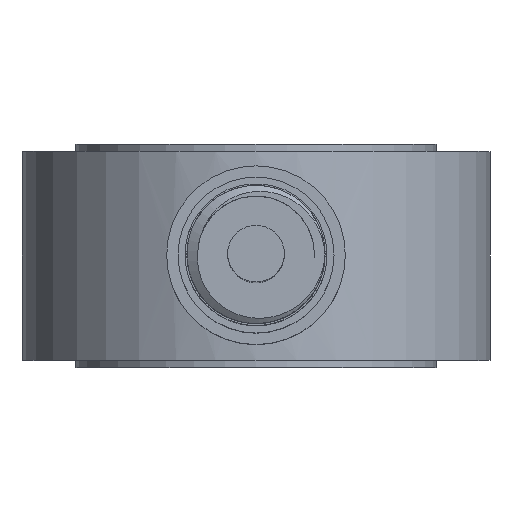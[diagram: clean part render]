
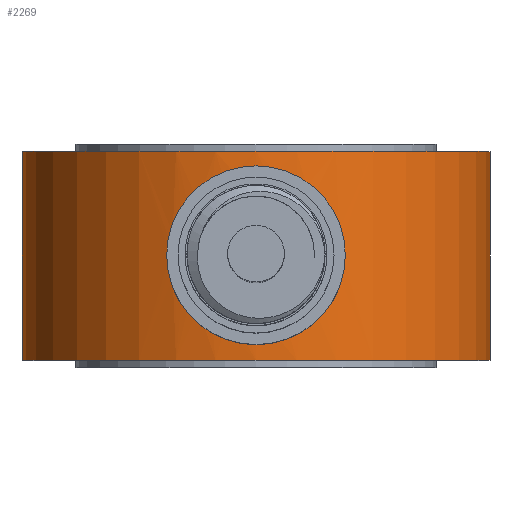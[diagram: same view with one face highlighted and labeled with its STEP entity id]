
A CAD part, top view. The second image highlights one B-rep face of the part: STEP entity #2269.
In plain terms, the highlighted cylindrical face has radius 8.25 mm (diameter 16.5 mm), a full revolution.
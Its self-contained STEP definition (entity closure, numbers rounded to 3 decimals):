
#45 = CARTESIAN_POINT ( 'NONE',  ( 3.02, 4.083, 7.677 ) ) ;
#86 = CARTESIAN_POINT ( 'NONE',  ( -3.04, 3.683, 7.669 ) ) ;
#109 = CARTESIAN_POINT ( 'NONE',  ( 2.941, 2.886, 7.708 ) ) ;
#124 = CARTESIAN_POINT ( 'NONE',  ( 3.02, 3.281, 7.677 ) ) ;
#139 = CARTESIAN_POINT ( 'NONE',  ( -0.987, 6.565, 8.193 ) ) ;
#149 = CARTESIAN_POINT ( 'NONE',  ( -0.401, 0.663, 8.243 ) ) ;
#277 = ORIENTED_EDGE ( 'NONE', *, *, #2490, .T. ) ;
#354 = CARTESIAN_POINT ( 'NONE',  ( 2.415, 1.826, 7.89 ) ) ;
#425 = CARTESIAN_POINT ( 'NONE',  ( -1.353, 6.412, 8.14 ) ) ;
#437 = CARTESIAN_POINT ( 'NONE',  ( 2.635, 2.154, 7.819 ) ) ;
#440 = DIRECTION ( 'NONE',  ( 0., 0., -1. ) ) ;
#447 = CARTESIAN_POINT ( 'NONE',  ( -2.636, 5.209, 7.818 ) ) ;
#450 = DIRECTION ( 'NONE',  ( 0., 1., 0. ) ) ;
#462 = CARTESIAN_POINT ( 'NONE',  ( 1.857, 1.268, 8.04 ) ) ;
#637 = CARTESIAN_POINT ( 'NONE',  ( 2.635, 5.212, 7.819 ) ) ;
#647 = CARTESIAN_POINT ( 'NONE',  ( 2.73, 5.035, 7.786 ) ) ;
#694 = CARTESIAN_POINT ( 'NONE',  ( 0., 0., 8.25 ) ) ;
#731 = CARTESIAN_POINT ( 'NONE',  ( 2.941, 4.478, 7.708 ) ) ;
#745 = CARTESIAN_POINT ( 'NONE',  ( -2.882, 2.696, 7.731 ) ) ;
#757 = CARTESIAN_POINT ( 'NONE',  ( -2.942, 2.89, 7.708 ) ) ;
#815 = EDGE_CURVE ( 'NONE', #1646, #1646, #1720, .T. ) ;
#849 = AXIS2_PLACEMENT_3D ( 'NONE', #866, #2868, #1724 ) ;
#866 = CARTESIAN_POINT ( 'NONE',  ( 0., 0., 0. ) ) ;
#890 = ORIENTED_EDGE ( 'NONE', *, *, #2342, .F. ) ;
#926 = CARTESIAN_POINT ( 'NONE',  ( -2.73, 5.036, 7.786 ) ) ;
#942 = CARTESIAN_POINT ( 'NONE',  ( -3.04, 3.683, 7.669 ) ) ;
#1011 = FACE_OUTER_BOUND ( 'NONE', #2564, .T. ) ;
#1029 = CARTESIAN_POINT ( 'NONE',  ( 2.011, 1.395, 8.002 ) ) ;
#1032 = CARTESIAN_POINT ( 'NONE',  ( 0., 7.366, 0. ) ) ;
#1038 = CARTESIAN_POINT ( 'NONE',  ( -2.288, 1.672, 7.928 ) ) ;
#1044 = AXIS2_PLACEMENT_3D ( 'NONE', #1318, #3609, #440 ) ;
#1052 = CARTESIAN_POINT ( 'NONE',  ( 0.402, 0.663, 8.243 ) ) ;
#1219 = CARTESIAN_POINT ( 'NONE',  ( 0.984, 6.566, 8.193 ) ) ;
#1228 = CARTESIAN_POINT ( 'NONE',  ( 1.53, 6.318, 8.109 ) ) ;
#1244 = CARTESIAN_POINT ( 'NONE',  ( 3.04, 3.882, 7.669 ) ) ;
#1316 = CARTESIAN_POINT ( 'NONE',  ( -2.011, 5.971, 8.002 ) ) ;
#1318 = CARTESIAN_POINT ( 'NONE',  ( 0., 7.366, 0. ) ) ;
#1326 = CYLINDRICAL_SURFACE ( 'NONE', #1044, 8.25 ) ;
#1329 = CARTESIAN_POINT ( 'NONE',  ( 1.354, 0.954, 8.14 ) ) ;
#1345 = CARTESIAN_POINT ( 'NONE',  ( -1.536, 1.03, 8.114 ) ) ;
#1417 = FACE_OUTER_BOUND ( 'NONE', #2700, .T. ) ;
#1508 = CARTESIAN_POINT ( 'NONE',  ( 2.73, 2.331, 7.786 ) ) ;
#1521 = CARTESIAN_POINT ( 'NONE',  ( 2.882, 2.697, 7.731 ) ) ;
#1589 = CARTESIAN_POINT ( 'NONE',  ( 0.2, 6.723, 8.25 ) ) ;
#1601 = VERTEX_POINT ( 'NONE', #694 ) ;
#1614 = CARTESIAN_POINT ( 'NONE',  ( 1.856, 6.098, 8.04 ) ) ;
#1625 = CARTESIAN_POINT ( 'NONE',  ( -0.988, 0.801, 8.193 ) ) ;
#1646 = VERTEX_POINT ( 'NONE', #86 ) ;
#1720 = B_SPLINE_CURVE_WITH_KNOTS ( 'NONE', 3,
 ( #3409, #2168, #3632, #757, #745, #3352, #2480, #2773, #1038, #1912, #1345, #1625, #2784, #149, #2200, #3064, #1052, #3075, #2491, #1329, #3341, #462, #1029, #2375, #354, #437, #1508, #1521, #109, #124, #3518, #1244, #45, #731, #2163, #647, #637, #2675, #2175, #3615, #1614, #1228, #2763, #1219, #1902, #3305, #1589, #3529, #2662, #2103, #139, #425, #1810, #2448, #1316, #2186, #2753, #447, #926, #3034, #3321, #3046, #2947, #942 ),
 .UNSPECIFIED., .T., .F.,
 ( 4, 2, 2, 2, 2, 2, 2, 2, 2, 2, 2, 2, 2, 2, 2, 2, 2, 2, 2, 2, 2, 2, 2, 2, 2, 2, 2, 2, 2, 2, 2, 4 ),
 ( 0., 0.001, 0.001, 0.002, 0.002, 0.004, 0.004, 0.005, 0.005, 0.006, 0.007, 0.007, 0.008, 0.008, 0.009, 0.01, 0.01, 0.011, 0.011, 0.012, 0.013, 0.013, 0.014, 0.014, 0.015, 0.016, 0.016, 0.017, 0.017, 0.018, 0.019, 0.019 ),
 .UNSPECIFIED. ) ;
#1724 = DIRECTION ( 'NONE',  ( 0., 0., 1. ) ) ;
#1810 = CARTESIAN_POINT ( 'NONE',  ( -1.53, 6.317, 8.109 ) ) ;
#1876 = CIRCLE ( 'NONE', #3358, 8.25 ) ;
#1902 = CARTESIAN_POINT ( 'NONE',  ( 0.794, 6.624, 8.214 ) ) ;
#1912 = CARTESIAN_POINT ( 'NONE',  ( -1.872, 1.256, 8.04 ) ) ;
#1915 = DIRECTION ( 'NONE',  ( 0., 0., 1. ) ) ;
#2103 = CARTESIAN_POINT ( 'NONE',  ( -0.794, 6.624, 8.214 ) ) ;
#2128 = CARTESIAN_POINT ( 'NONE',  ( 0., 7.366, 8.25 ) ) ;
#2163 = CARTESIAN_POINT ( 'NONE',  ( 2.883, 4.668, 7.73 ) ) ;
#2168 = CARTESIAN_POINT ( 'NONE',  ( -3.04, 3.48, 7.669 ) ) ;
#2175 = CARTESIAN_POINT ( 'NONE',  ( 2.29, 5.692, 7.927 ) ) ;
#2186 = CARTESIAN_POINT ( 'NONE',  ( -2.29, 5.692, 7.927 ) ) ;
#2200 = CARTESIAN_POINT ( 'NONE',  ( -0.202, 0.643, 8.25 ) ) ;
#2269 = ADVANCED_FACE ( 'NONE', ( #1417, #1011, #2867 ), #1326, .T. ) ;
#2342 = EDGE_CURVE ( 'NONE', #3001, #3001, #1876, .T. ) ;
#2375 = CARTESIAN_POINT ( 'NONE',  ( 2.29, 1.674, 7.927 ) ) ;
#2448 = CARTESIAN_POINT ( 'NONE',  ( -1.86, 6.096, 8.039 ) ) ;
#2462 = EDGE_LOOP ( 'NONE', ( #2742 ) ) ;
#2480 = CARTESIAN_POINT ( 'NONE',  ( -2.636, 2.155, 7.818 ) ) ;
#2490 = EDGE_CURVE ( 'NONE', #1601, #1601, #3715, .T. ) ;
#2491 = CARTESIAN_POINT ( 'NONE',  ( 0.984, 0.8, 8.193 ) ) ;
#2564 = EDGE_LOOP ( 'NONE', ( #277 ) ) ;
#2662 = CARTESIAN_POINT ( 'NONE',  ( -0.4, 6.703, 8.243 ) ) ;
#2675 = CARTESIAN_POINT ( 'NONE',  ( 2.415, 5.54, 7.889 ) ) ;
#2700 = EDGE_LOOP ( 'NONE', ( #890 ) ) ;
#2742 = ORIENTED_EDGE ( 'NONE', *, *, #815, .F. ) ;
#2753 = CARTESIAN_POINT ( 'NONE',  ( -2.417, 5.537, 7.889 ) ) ;
#2763 = CARTESIAN_POINT ( 'NONE',  ( 1.353, 6.413, 8.14 ) ) ;
#2773 = CARTESIAN_POINT ( 'NONE',  ( -2.415, 1.826, 7.889 ) ) ;
#2784 = CARTESIAN_POINT ( 'NONE',  ( -0.794, 0.742, 8.214 ) ) ;
#2867 = FACE_BOUND ( 'NONE', #2462, .T. ) ;
#2868 = DIRECTION ( 'NONE',  ( 0., 1., 0. ) ) ;
#2947 = CARTESIAN_POINT ( 'NONE',  ( -3.04, 3.886, 7.669 ) ) ;
#3001 = VERTEX_POINT ( 'NONE', #2128 ) ;
#3034 = CARTESIAN_POINT ( 'NONE',  ( -2.883, 4.667, 7.73 ) ) ;
#3046 = CARTESIAN_POINT ( 'NONE',  ( -3.02, 4.085, 7.678 ) ) ;
#3064 = CARTESIAN_POINT ( 'NONE',  ( 0.198, 0.643, 8.25 ) ) ;
#3075 = CARTESIAN_POINT ( 'NONE',  ( 0.793, 0.742, 8.214 ) ) ;
#3305 = CARTESIAN_POINT ( 'NONE',  ( 0.403, 6.703, 8.242 ) ) ;
#3321 = CARTESIAN_POINT ( 'NONE',  ( -2.942, 4.474, 7.708 ) ) ;
#3341 = CARTESIAN_POINT ( 'NONE',  ( 1.529, 1.048, 8.109 ) ) ;
#3352 = CARTESIAN_POINT ( 'NONE',  ( -2.729, 2.329, 7.786 ) ) ;
#3358 = AXIS2_PLACEMENT_3D ( 'NONE', #1032, #450, #1915 ) ;
#3409 = CARTESIAN_POINT ( 'NONE',  ( -3.04, 3.683, 7.669 ) ) ;
#3518 = CARTESIAN_POINT ( 'NONE',  ( 3.04, 3.482, 7.67 ) ) ;
#3529 = CARTESIAN_POINT ( 'NONE',  ( -0.201, 6.723, 8.25 ) ) ;
#3609 = DIRECTION ( 'NONE',  ( 0., -1., 0. ) ) ;
#3615 = CARTESIAN_POINT ( 'NONE',  ( 2.009, 5.973, 8.003 ) ) ;
#3632 = CARTESIAN_POINT ( 'NONE',  ( -3.02, 3.281, 7.678 ) ) ;
#3715 = CIRCLE ( 'NONE', #849, 8.25 ) ;
